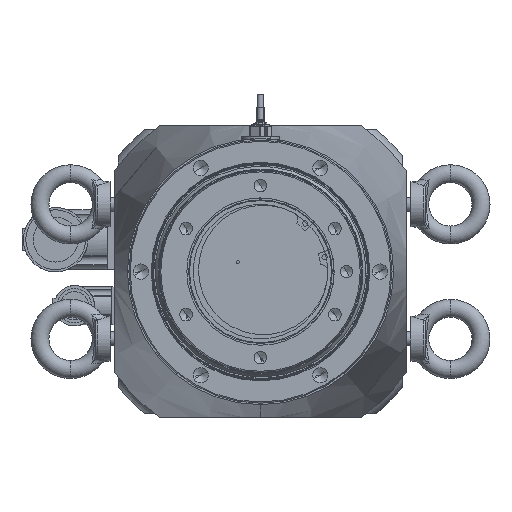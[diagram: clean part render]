
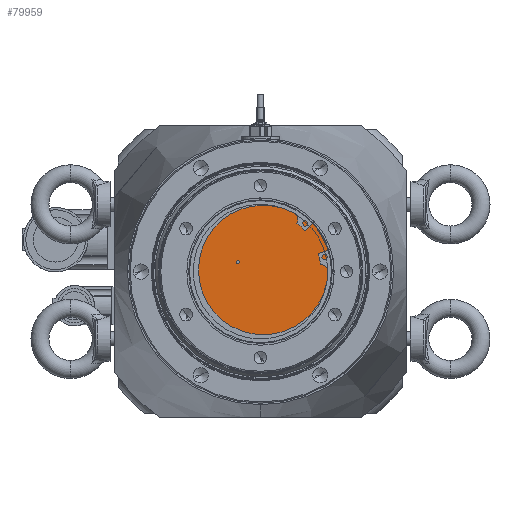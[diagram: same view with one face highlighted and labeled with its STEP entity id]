
A CAD part, front view. The second image highlights one B-rep face of the part: STEP entity #79959.
In plain terms, the highlighted planar face has unit normal (0, -1, 0).
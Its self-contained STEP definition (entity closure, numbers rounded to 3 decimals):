
#2194 = CARTESIAN_POINT ( 'NONE',  ( -97., -290.221, -97. ) ) ;
#2817 = VERTEX_POINT ( 'NONE', #30871 ) ;
#3633 = CARTESIAN_POINT ( 'NONE',  ( -112.139, -290.221, -90.763 ) ) ;
#5072 = CARTESIAN_POINT ( 'NONE',  ( -112.139, -290.221, -90.763 ) ) ;
#5546 = DIRECTION ( 'NONE',  ( 0., 1., 0. ) ) ;
#11778 = CARTESIAN_POINT ( 'NONE',  ( -113.005, -290.221, -91.263 ) ) ;
#12053 = ORIENTED_EDGE ( 'NONE', *, *, #80124, .T. ) ;
#12108 = FACE_BOUND ( 'NONE', #67428, .T. ) ;
#13906 = VERTEX_POINT ( 'NONE', #79204 ) ;
#17895 = VERTEX_POINT ( 'NONE', #61112 ) ;
#19078 = CIRCLE ( 'NONE', #24636, 1. ) ;
#20653 = AXIS2_PLACEMENT_3D ( 'NONE', #3633, #41173, #92974 ) ;
#24636 = AXIS2_PLACEMENT_3D ( 'NONE', #5072, #64077, #71486 ) ;
#24853 = DIRECTION ( 'NONE',  ( 0., 1., 0. ) ) ;
#25420 = ORIENTED_EDGE ( 'NONE', *, *, #87781, .F. ) ;
#30871 = CARTESIAN_POINT ( 'NONE',  ( -111.273, -290.221, -90.263 ) ) ;
#31666 = CIRCLE ( 'NONE', #88651, 47.5 ) ;
#37762 = EDGE_LOOP ( 'NONE', ( #25420, #40686 ) ) ;
#38435 = DIRECTION ( 'NONE',  ( 0.866, 0., 0.5 ) ) ;
#40686 = ORIENTED_EDGE ( 'NONE', *, *, #81025, .F. ) ;
#41173 = DIRECTION ( 'NONE',  ( 0., 1., 0. ) ) ;
#41915 = AXIS2_PLACEMENT_3D ( 'NONE', #2194, #54063, #38435 ) ;
#42130 = DIRECTION ( 'NONE',  ( 0.866, 0., 0.5 ) ) ;
#54063 = DIRECTION ( 'NONE',  ( 0., 1., 0. ) ) ;
#55042 = AXIS2_PLACEMENT_3D ( 'NONE', #66616, #24853, #60495 ) ;
#59593 = EDGE_CURVE ( 'NONE', #2817, #74863, #94653, .T. ) ;
#60495 = DIRECTION ( 'NONE',  ( 0.866, 0., 0.5 ) ) ;
#61112 = CARTESIAN_POINT ( 'NONE',  ( -138.136, -290.221, -120.75 ) ) ;
#64077 = DIRECTION ( 'NONE',  ( 0., 1., 0. ) ) ;
#66616 = CARTESIAN_POINT ( 'NONE',  ( -97., -290.221, -97. ) ) ;
#67428 = EDGE_LOOP ( 'NONE', ( #12053, #88923 ) ) ;
#71486 = DIRECTION ( 'NONE',  ( 0.866, 0., 0.5 ) ) ;
#74863 = VERTEX_POINT ( 'NONE', #11778 ) ;
#79071 = CARTESIAN_POINT ( 'NONE',  ( -97., -290.221, -97. ) ) ;
#79204 = CARTESIAN_POINT ( 'NONE',  ( -55.864, -290.221, -73.25 ) ) ;
#79959 = ADVANCED_FACE ( 'NONE', ( #89807, #12108 ), #90957, .F. ) ;
#80124 = EDGE_CURVE ( 'NONE', #74863, #2817, #19078, .T. ) ;
#81025 = EDGE_CURVE ( 'NONE', #13906, #17895, #90738, .T. ) ;
#87781 = EDGE_CURVE ( 'NONE', #17895, #13906, #31666, .T. ) ;
#88651 = AXIS2_PLACEMENT_3D ( 'NONE', #79071, #5546, #42130 ) ;
#88923 = ORIENTED_EDGE ( 'NONE', *, *, #59593, .T. ) ;
#89807 = FACE_OUTER_BOUND ( 'NONE', #37762, .T. ) ;
#90738 = CIRCLE ( 'NONE', #55042, 47.5 ) ;
#90957 = PLANE ( 'NONE',  #41915 ) ;
#92974 = DIRECTION ( 'NONE',  ( 0.866, 0., 0.5 ) ) ;
#94653 = CIRCLE ( 'NONE', #20653, 1. ) ;
